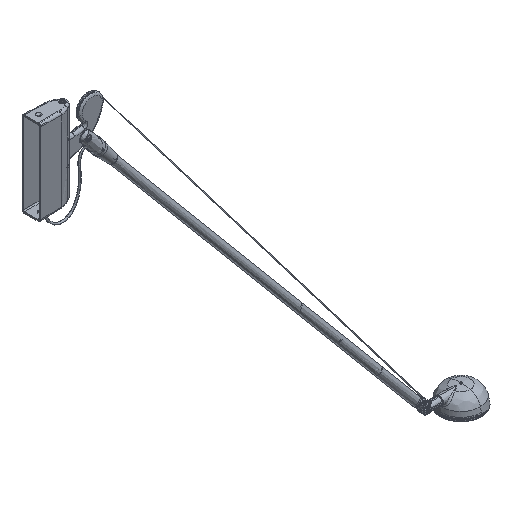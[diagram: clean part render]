
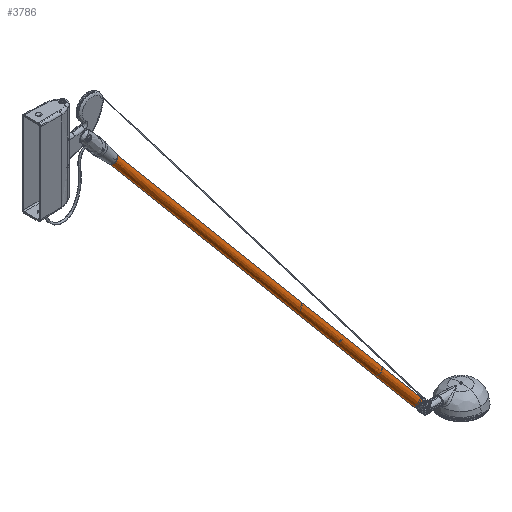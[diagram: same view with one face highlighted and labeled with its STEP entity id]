
A CAD part, isometric view. The second image highlights one B-rep face of the part: STEP entity #3786.
In plain terms, the highlighted free-form (B-spline) face has degree [2, 1] with [9, 2] control points.
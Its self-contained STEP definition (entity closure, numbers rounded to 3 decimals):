
#3786=ADVANCED_FACE('',(#7215),#50324,.T.);
#7215=FACE_OUTER_BOUND('',#11253,.T.);
#11253=EDGE_LOOP('',(#24863,#24864,#24865,#24866,#24867,#24868,#24869,#24870,
#24871,#24872,#24873,#24874));
#24863=ORIENTED_EDGE('',*,*,#33636,.F.);
#24864=ORIENTED_EDGE('',*,*,#33651,.T.);
#24865=ORIENTED_EDGE('',*,*,#33652,.T.);
#24866=ORIENTED_EDGE('',*,*,#33653,.T.);
#24867=ORIENTED_EDGE('',*,*,#33654,.T.);
#24868=ORIENTED_EDGE('',*,*,#33655,.T.);
#24869=ORIENTED_EDGE('',*,*,#33642,.F.);
#24870=ORIENTED_EDGE('',*,*,#33656,.T.);
#24871=ORIENTED_EDGE('',*,*,#33657,.T.);
#24872=ORIENTED_EDGE('',*,*,#33658,.T.);
#24873=ORIENTED_EDGE('',*,*,#33659,.T.);
#24874=ORIENTED_EDGE('',*,*,#33660,.T.);
#33636=EDGE_CURVE('',#46645,#46646,#37869,.T.);
#33642=EDGE_CURVE('',#46651,#46652,#37872,.T.);
#33651=EDGE_CURVE('',#46645,#46660,#41922,.T.);
#33652=EDGE_CURVE('',#46660,#46661,#37879,.T.);
#33653=EDGE_CURVE('',#46661,#46662,#41923,.T.);
#33654=EDGE_CURVE('',#46662,#46663,#37880,.T.);
#33655=EDGE_CURVE('',#46663,#46652,#41924,.T.);
#33656=EDGE_CURVE('',#46651,#46657,#41925,.T.);
#33657=EDGE_CURVE('',#46657,#46664,#37881,.T.);
#33658=EDGE_CURVE('',#46664,#46665,#41926,.T.);
#33659=EDGE_CURVE('',#46665,#46658,#37882,.T.);
#33660=EDGE_CURVE('',#46658,#46646,#41927,.T.);
#37869=B_SPLINE_CURVE_WITH_KNOTS('',1,(#132909,#132910),.UNSPECIFIED.,.F.,
 .F.,(2,2),(0.,995.),.UNSPECIFIED.);
#37872=B_SPLINE_CURVE_WITH_KNOTS('',1,(#132924,#132925),.UNSPECIFIED.,.F.,
 .F.,(2,2),(0.,995.),.UNSPECIFIED.);
#37879=B_SPLINE_CURVE_WITH_KNOTS('',1,(#132947,#132948),.UNSPECIFIED.,.F.,
 .F.,(2,2),(0.,1.5),.UNSPECIFIED.);
#37880=B_SPLINE_CURVE_WITH_KNOTS('',1,(#132952,#132953),.UNSPECIFIED.,.F.,
 .F.,(2,2),(0.,1.5),.UNSPECIFIED.);
#37881=B_SPLINE_CURVE_WITH_KNOTS('',1,(#132960,#132961),.UNSPECIFIED.,.F.,
 .F.,(2,2),(0.,7.),.UNSPECIFIED.);
#37882=B_SPLINE_CURVE_WITH_KNOTS('',1,(#132965,#132966),.UNSPECIFIED.,.F.,
 .F.,(2,2),(0.,7.),.UNSPECIFIED.);
#41922=(
BOUNDED_CURVE()
B_SPLINE_CURVE(2,(#132944,#132945,#132946),.UNSPECIFIED.,.F.,.F.)
B_SPLINE_CURVE_WITH_KNOTS((3,3),(0.,11.564),.UNSPECIFIED.)
CURVE()
GEOMETRIC_REPRESENTATION_ITEM()
RATIONAL_B_SPLINE_CURVE((1.,0.75,1.))
REPRESENTATION_ITEM('')
);
#41923=(
BOUNDED_CURVE()
B_SPLINE_CURVE(2,(#132949,#132950,#132951),.UNSPECIFIED.,.F.,.F.)
B_SPLINE_CURVE_WITH_KNOTS((3,3),(0.,2.005),.UNSPECIFIED.)
CURVE()
GEOMETRIC_REPRESENTATION_ITEM()
RATIONAL_B_SPLINE_CURVE((1.,0.992,1.))
REPRESENTATION_ITEM('')
);
#41924=(
BOUNDED_CURVE()
B_SPLINE_CURVE(2,(#132954,#132955,#132956),.UNSPECIFIED.,.F.,.F.)
B_SPLINE_CURVE_WITH_KNOTS((3,3),(0.,11.564),.UNSPECIFIED.)
CURVE()
GEOMETRIC_REPRESENTATION_ITEM()
RATIONAL_B_SPLINE_CURVE((1.,0.75,1.))
REPRESENTATION_ITEM('')
);
#41925=(
BOUNDED_CURVE()
B_SPLINE_CURVE(2,(#132957,#132958,#132959),.UNSPECIFIED.,.F.,.F.)
B_SPLINE_CURVE_WITH_KNOTS((3,3),(0.,10.545),.UNSPECIFIED.)
CURVE()
GEOMETRIC_REPRESENTATION_ITEM()
RATIONAL_B_SPLINE_CURVE((1.,0.791,1.))
REPRESENTATION_ITEM('')
);
#41926=(
BOUNDED_CURVE()
B_SPLINE_CURVE(2,(#132962,#132963,#132964),.UNSPECIFIED.,.F.,.F.)
B_SPLINE_CURVE_WITH_KNOTS((3,3),(0.,4.043),.UNSPECIFIED.)
CURVE()
GEOMETRIC_REPRESENTATION_ITEM()
RATIONAL_B_SPLINE_CURVE((1.,0.968,1.))
REPRESENTATION_ITEM('')
);
#41927=(
BOUNDED_CURVE()
B_SPLINE_CURVE(2,(#132967,#132968,#132969),.UNSPECIFIED.,.F.,.F.)
B_SPLINE_CURVE_WITH_KNOTS((3,3),(0.,10.545),.UNSPECIFIED.)
CURVE()
GEOMETRIC_REPRESENTATION_ITEM()
RATIONAL_B_SPLINE_CURVE((1.,0.791,1.))
REPRESENTATION_ITEM('')
);
#46645=VERTEX_POINT('',#132849);
#46646=VERTEX_POINT('',#132850);
#46651=VERTEX_POINT('',#132855);
#46652=VERTEX_POINT('',#132856);
#46657=VERTEX_POINT('',#132861);
#46658=VERTEX_POINT('',#132862);
#46660=VERTEX_POINT('',#132864);
#46661=VERTEX_POINT('',#132865);
#46662=VERTEX_POINT('',#132866);
#46663=VERTEX_POINT('',#132867);
#46664=VERTEX_POINT('',#132868);
#46665=VERTEX_POINT('',#132869);
#50324=(
BOUNDED_SURFACE()
B_SPLINE_SURFACE(2,1,((#132786,#132787),(#132788,#132789),(#132790,#132791),
(#132792,#132793),(#132794,#132795),(#132796,#132797),(#132798,#132799),
(#132800,#132801),(#132802,#132803)),.UNSPECIFIED.,.T.,.F.,.F.)
B_SPLINE_SURFACE_WITH_KNOTS((3,2,2,2,3),(2,2),(0.,1.571,3.142,
4.712,6.283),(0.,1194.),.UNSPECIFIED.)
GEOMETRIC_REPRESENTATION_ITEM()
RATIONAL_B_SPLINE_SURFACE(((1.,1.),(0.707,0.707),
(1.,1.),(0.707,0.707),(1.,1.),(0.707,
0.707),(1.,1.),(0.707,0.707),(1.,1.)))
REPRESENTATION_ITEM('')
SURFACE()
);
#132786=CARTESIAN_POINT('',(832.233,-367.929,-488.028));
#132787=CARTESIAN_POINT('',(64.744,-367.929,426.629));
#132788=CARTESIAN_POINT('',(826.104,-367.929,-493.17));
#132789=CARTESIAN_POINT('',(58.616,-367.929,421.487));
#132790=CARTESIAN_POINT('',(826.104,-375.929,-493.17));
#132791=CARTESIAN_POINT('',(58.616,-375.929,421.487));
#132792=CARTESIAN_POINT('',(826.104,-383.929,-493.17));
#132793=CARTESIAN_POINT('',(58.616,-383.929,421.487));
#132794=CARTESIAN_POINT('',(832.233,-383.929,-488.028));
#132795=CARTESIAN_POINT('',(64.744,-383.929,426.629));
#132796=CARTESIAN_POINT('',(838.361,-383.929,-482.886));
#132797=CARTESIAN_POINT('',(70.872,-383.929,431.771));
#132798=CARTESIAN_POINT('',(838.361,-375.929,-482.886));
#132799=CARTESIAN_POINT('',(70.872,-375.929,431.771));
#132800=CARTESIAN_POINT('',(838.361,-367.929,-482.886));
#132801=CARTESIAN_POINT('',(70.872,-367.929,431.771));
#132802=CARTESIAN_POINT('',(832.233,-367.929,-488.028));
#132803=CARTESIAN_POINT('',(64.744,-367.929,426.629));
#132849=CARTESIAN_POINT('',(762.147,-375.929,-416.949));
#132850=CARTESIAN_POINT('',(122.573,-375.929,345.265));
#132855=CARTESIAN_POINT('',(134.83,-375.929,355.55));
#132856=CARTESIAN_POINT('',(774.403,-375.929,-406.664));
#132861=CARTESIAN_POINT('',(130.233,-383.675,351.693));
#132862=CARTESIAN_POINT('',(127.169,-383.675,349.122));
#132864=CARTESIAN_POINT('',(767.509,-383.866,-412.449));
#132865=CARTESIAN_POINT('',(766.545,-383.866,-411.3));
#132866=CARTESIAN_POINT('',(768.077,-383.866,-410.015));
#132867=CARTESIAN_POINT('',(769.041,-383.866,-411.164));
#132868=CARTESIAN_POINT('',(134.733,-383.675,346.331));
#132869=CARTESIAN_POINT('',(131.669,-383.675,343.76));
#132909=CARTESIAN_POINT('',(762.147,-375.929,-416.949));
#132910=CARTESIAN_POINT('',(122.573,-375.929,345.265));
#132924=CARTESIAN_POINT('',(134.83,-375.929,355.55));
#132925=CARTESIAN_POINT('',(774.403,-375.929,-406.664));
#132944=CARTESIAN_POINT('',(762.147,-375.929,-416.949));
#132945=CARTESIAN_POINT('',(762.147,-382.984,-416.949));
#132946=CARTESIAN_POINT('',(767.509,-383.866,-412.449));
#132947=CARTESIAN_POINT('',(767.509,-383.866,-412.449));
#132948=CARTESIAN_POINT('',(766.545,-383.866,-411.3));
#132949=CARTESIAN_POINT('',(766.545,-383.866,-411.3));
#132950=CARTESIAN_POINT('',(767.311,-383.992,-410.658));
#132951=CARTESIAN_POINT('',(768.077,-383.866,-410.015));
#132952=CARTESIAN_POINT('',(768.077,-383.866,-410.015));
#132953=CARTESIAN_POINT('',(769.041,-383.866,-411.164));
#132954=CARTESIAN_POINT('',(769.041,-383.866,-411.164));
#132955=CARTESIAN_POINT('',(774.403,-382.984,-406.664));
#132956=CARTESIAN_POINT('',(774.403,-375.929,-406.664));
#132957=CARTESIAN_POINT('',(134.83,-375.929,355.55));
#132958=CARTESIAN_POINT('',(134.83,-382.126,355.55));
#132959=CARTESIAN_POINT('',(130.233,-383.675,351.693));
#132960=CARTESIAN_POINT('',(130.233,-383.675,351.693));
#132961=CARTESIAN_POINT('',(134.733,-383.675,346.331));
#132962=CARTESIAN_POINT('',(134.733,-383.675,346.331));
#132963=CARTESIAN_POINT('',(133.201,-384.191,345.045));
#132964=CARTESIAN_POINT('',(131.669,-383.675,343.76));
#132965=CARTESIAN_POINT('',(131.669,-383.675,343.76));
#132966=CARTESIAN_POINT('',(127.169,-383.675,349.122));
#132967=CARTESIAN_POINT('',(127.169,-383.675,349.122));
#132968=CARTESIAN_POINT('',(122.573,-382.126,345.265));
#132969=CARTESIAN_POINT('',(122.573,-375.929,345.265));
